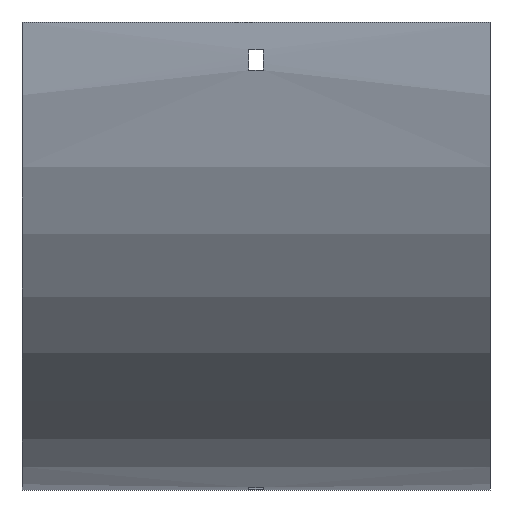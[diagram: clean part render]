
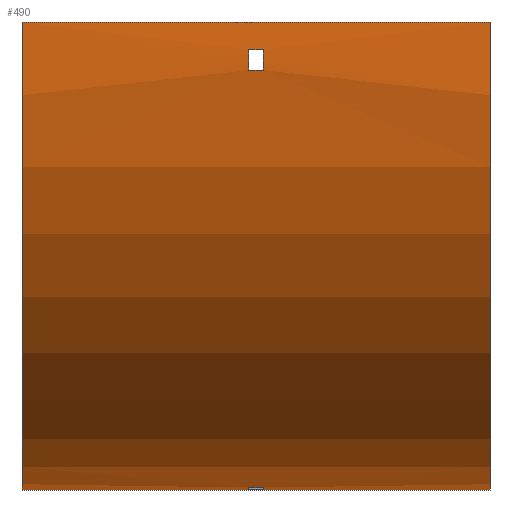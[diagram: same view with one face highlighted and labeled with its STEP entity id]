
A CAD part, front view. The second image highlights one B-rep face of the part: STEP entity #490.
In plain terms, the highlighted cylindrical face has radius 204 mm (diameter 408 mm), a partial arc.
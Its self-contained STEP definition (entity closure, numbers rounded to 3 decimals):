
#9 = AXIS2_PLACEMENT_3D ( 'NONE', #1228, #326, #1236 ) ;
#16 = CIRCLE ( 'NONE', #250, 204. ) ;
#18 = CARTESIAN_POINT ( 'NONE',  ( 102., 79., -202.916 ) ) ;
#31 = VERTEX_POINT ( 'NONE', #269 ) ;
#57 = CIRCLE ( 'NONE', #1133, 204. ) ;
#59 = ORIENTED_EDGE ( 'NONE', *, *, #660, .F. ) ;
#93 = VERTEX_POINT ( 'NONE', #1432 ) ;
#101 = FACE_OUTER_BOUND ( 'NONE', #464, .T. ) ;
#103 = EDGE_CURVE ( 'NONE', #1411, #31, #16, .T. ) ;
#111 = DIRECTION ( 'NONE',  ( -1., 0., 0. ) ) ;
#118 = CARTESIAN_POINT ( 'NONE',  ( 102., -102.916, -21. ) ) ;
#144 = DIRECTION ( 'NONE',  ( 1., 0., 0. ) ) ;
#147 = VECTOR ( 'NONE', #948, 1000. ) ;
#151 = CARTESIAN_POINT ( 'NONE',  ( 102., 100., 0. ) ) ;
#155 = EDGE_CURVE ( 'NONE', #1046, #1411, #1455, .T. ) ;
#165 = CARTESIAN_POINT ( 'NONE',  ( -102., -104., 0. ) ) ;
#166 = LINE ( 'NONE', #918, #1539 ) ;
#168 = CARTESIAN_POINT ( 'NONE',  ( -102., 100., -204. ) ) ;
#182 = CARTESIAN_POINT ( 'NONE',  ( 3.25, -103.647, -12. ) ) ;
#201 = CIRCLE ( 'NONE', #371, 204. ) ;
#245 = FACE_BOUND ( 'NONE', #1270, .T. ) ;
#250 = AXIS2_PLACEMENT_3D ( 'NONE', #786, #1402, #386 ) ;
#264 = DIRECTION ( 'NONE',  ( 1., 0., 0. ) ) ;
#269 = CARTESIAN_POINT ( 'NONE',  ( -3.25, 88., -203.647 ) ) ;
#272 = CIRCLE ( 'NONE', #1438, 204. ) ;
#297 = EDGE_CURVE ( 'NONE', #847, #1578, #700, .T. ) ;
#326 = DIRECTION ( 'NONE',  ( -1., 0., 0. ) ) ;
#338 = ORIENTED_EDGE ( 'NONE', *, *, #103, .F. ) ;
#339 = ORIENTED_EDGE ( 'NONE', *, *, #422, .T. ) ;
#371 = AXIS2_PLACEMENT_3D ( 'NONE', #533, #264, #781 ) ;
#379 = DIRECTION ( 'NONE',  ( 1., 0., 0. ) ) ;
#384 = CARTESIAN_POINT ( 'NONE',  ( 3.25, -102.916, -21. ) ) ;
#386 = DIRECTION ( 'NONE',  ( 0., 1., 0. ) ) ;
#422 = EDGE_CURVE ( 'NONE', #1578, #1567, #1248, .T. ) ;
#438 = CARTESIAN_POINT ( 'NONE',  ( 102., 88., -203.647 ) ) ;
#464 = EDGE_LOOP ( 'NONE', ( #875, #1604, #59, #772 ) ) ;
#470 = EDGE_CURVE ( 'NONE', #476, #847, #1676, .T. ) ;
#476 = VERTEX_POINT ( 'NONE', #384 ) ;
#480 = EDGE_CURVE ( 'NONE', #699, #1046, #272, .T. ) ;
#483 = ORIENTED_EDGE ( 'NONE', *, *, #1437, .T. ) ;
#490 = ADVANCED_FACE ( 'NONE', ( #101, #245, #913 ), #746, .T. ) ;
#499 = AXIS2_PLACEMENT_3D ( 'NONE', #761, #111, #1554 ) ;
#533 = CARTESIAN_POINT ( 'NONE',  ( 3.25, 100., 0. ) ) ;
#539 = ORIENTED_EDGE ( 'NONE', *, *, #1546, .F. ) ;
#569 = VERTEX_POINT ( 'NONE', #168 ) ;
#608 = DIRECTION ( 'NONE',  ( -1., 0., 0. ) ) ;
#655 = DIRECTION ( 'NONE',  ( -1., 0., 0. ) ) ;
#660 = EDGE_CURVE ( 'NONE', #1643, #93, #922, .T. ) ;
#674 = DIRECTION ( 'NONE',  ( 0., 0., -1. ) ) ;
#699 = VERTEX_POINT ( 'NONE', #1361 ) ;
#700 = CIRCLE ( 'NONE', #9, 204. ) ;
#737 = AXIS2_PLACEMENT_3D ( 'NONE', #151, #144, #674 ) ;
#746 = CYLINDRICAL_SURFACE ( 'NONE', #499, 204. ) ;
#747 = ORIENTED_EDGE ( 'NONE', *, *, #155, .F. ) ;
#761 = CARTESIAN_POINT ( 'NONE',  ( 102., 100., 0. ) ) ;
#772 = ORIENTED_EDGE ( 'NONE', *, *, #1681, .T. ) ;
#781 = DIRECTION ( 'NONE',  ( 0., 0., -1. ) ) ;
#786 = CARTESIAN_POINT ( 'NONE',  ( -3.25, 100., 0. ) ) ;
#790 = VECTOR ( 'NONE', #608, 1000. ) ;
#805 = ORIENTED_EDGE ( 'NONE', *, *, #470, .T. ) ;
#835 = CARTESIAN_POINT ( 'NONE',  ( 3.25, 79., -202.916 ) ) ;
#836 = LINE ( 'NONE', #438, #147 ) ;
#847 = VERTEX_POINT ( 'NONE', #1528 ) ;
#866 = VECTOR ( 'NONE', #1364, 1000. ) ;
#875 = ORIENTED_EDGE ( 'NONE', *, *, #1207, .T. ) ;
#889 = DIRECTION ( 'NONE',  ( -1., 0., 0. ) ) ;
#913 = FACE_BOUND ( 'NONE', #1449, .T. ) ;
#914 = CARTESIAN_POINT ( 'NONE',  ( 102., -104., 0. ) ) ;
#918 = CARTESIAN_POINT ( 'NONE',  ( 102., 100., -204. ) ) ;
#922 = CIRCLE ( 'NONE', #737, 204. ) ;
#948 = DIRECTION ( 'NONE',  ( 1., 0., 0. ) ) ;
#1020 = CARTESIAN_POINT ( 'NONE',  ( -102., 100., 0. ) ) ;
#1033 = CARTESIAN_POINT ( 'NONE',  ( 3.25, 100., 0. ) ) ;
#1046 = VERTEX_POINT ( 'NONE', #835 ) ;
#1050 = VERTEX_POINT ( 'NONE', #165 ) ;
#1114 = ORIENTED_EDGE ( 'NONE', *, *, #297, .T. ) ;
#1133 = AXIS2_PLACEMENT_3D ( 'NONE', #1020, #379, #1410 ) ;
#1171 = DIRECTION ( 'NONE',  ( 0., 0., 1. ) ) ;
#1175 = CARTESIAN_POINT ( 'NONE',  ( -3.25, 79., -202.916 ) ) ;
#1207 = EDGE_CURVE ( 'NONE', #1050, #569, #57, .T. ) ;
#1218 = ORIENTED_EDGE ( 'NONE', *, *, #480, .F. ) ;
#1228 = CARTESIAN_POINT ( 'NONE',  ( -3.25, 100., 0. ) ) ;
#1236 = DIRECTION ( 'NONE',  ( 0., 0., 1. ) ) ;
#1248 = LINE ( 'NONE', #1639, #866 ) ;
#1270 = EDGE_LOOP ( 'NONE', ( #805, #1114, #339, #483 ) ) ;
#1290 = CARTESIAN_POINT ( 'NONE',  ( 102., -104., 0. ) ) ;
#1305 = CARTESIAN_POINT ( 'NONE',  ( -3.25, -103.647, -12. ) ) ;
#1313 = DIRECTION ( 'NONE',  ( -1., 0., 0. ) ) ;
#1356 = VECTOR ( 'NONE', #1656, 1000. ) ;
#1361 = CARTESIAN_POINT ( 'NONE',  ( 3.25, 88., -203.647 ) ) ;
#1364 = DIRECTION ( 'NONE',  ( 1., 0., 0. ) ) ;
#1395 = EDGE_CURVE ( 'NONE', #93, #569, #166, .T. ) ;
#1402 = DIRECTION ( 'NONE',  ( 1., 0., 0. ) ) ;
#1410 = DIRECTION ( 'NONE',  ( 0., 0., -1. ) ) ;
#1411 = VERTEX_POINT ( 'NONE', #1175 ) ;
#1432 = CARTESIAN_POINT ( 'NONE',  ( 102., 100., -204. ) ) ;
#1437 = EDGE_CURVE ( 'NONE', #1567, #476, #201, .T. ) ;
#1438 = AXIS2_PLACEMENT_3D ( 'NONE', #1033, #889, #1171 ) ;
#1449 = EDGE_LOOP ( 'NONE', ( #338, #747, #1218, #539 ) ) ;
#1455 = LINE ( 'NONE', #18, #1628 ) ;
#1528 = CARTESIAN_POINT ( 'NONE',  ( -3.25, -102.916, -21. ) ) ;
#1539 = VECTOR ( 'NONE', #655, 1000. ) ;
#1546 = EDGE_CURVE ( 'NONE', #31, #699, #836, .T. ) ;
#1554 = DIRECTION ( 'NONE',  ( 0., 0., 1. ) ) ;
#1556 = LINE ( 'NONE', #914, #790 ) ;
#1567 = VERTEX_POINT ( 'NONE', #182 ) ;
#1578 = VERTEX_POINT ( 'NONE', #1305 ) ;
#1604 = ORIENTED_EDGE ( 'NONE', *, *, #1395, .F. ) ;
#1628 = VECTOR ( 'NONE', #1313, 1000. ) ;
#1639 = CARTESIAN_POINT ( 'NONE',  ( 102., -103.647, -12. ) ) ;
#1643 = VERTEX_POINT ( 'NONE', #1290 ) ;
#1656 = DIRECTION ( 'NONE',  ( -1., 0., 0. ) ) ;
#1676 = LINE ( 'NONE', #118, #1356 ) ;
#1681 = EDGE_CURVE ( 'NONE', #1643, #1050, #1556, .T. ) ;
